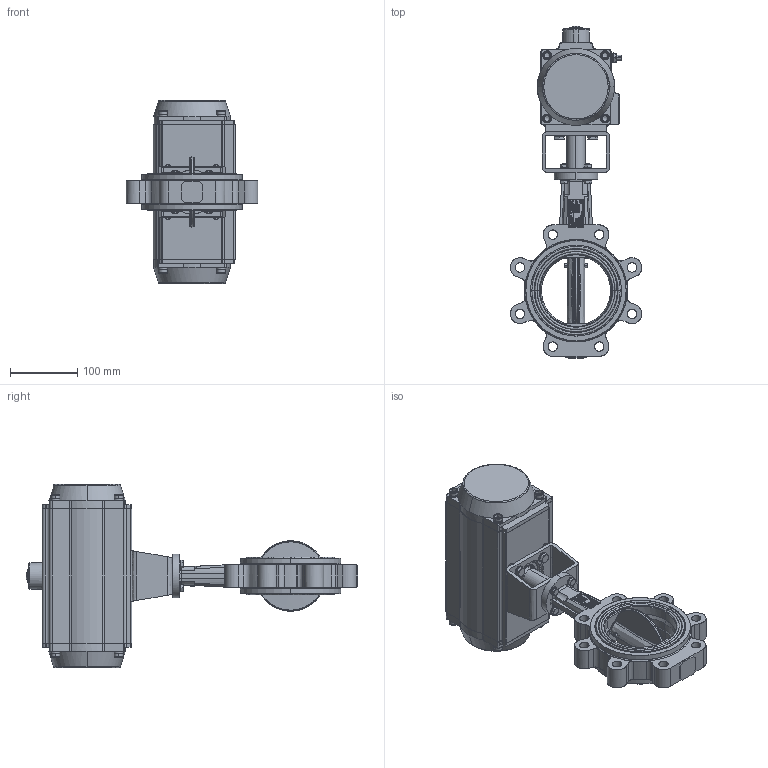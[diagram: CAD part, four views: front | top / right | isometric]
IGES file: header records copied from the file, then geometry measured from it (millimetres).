
Start section: SolidWorks IGES file using analytic representation for surfaces
Global section: file name: H:\BE BIBLIOTHEQUE 3D\BE SECTION 01 - ROBINETS A PAPILLON_VANNES PASSAGE DIRECTE\VP - Vanne Papillon\VPG\VPG4XXX-N07\LUG\DN100\VPG464X-N07XX0100.igs; native system: SolidWorks 2020; preprocessor: SolidWorks 2020; author: k.gigout; date: 220607.082521; units: millimetre
Bounding box: 195.3 x 493.12 x 272 mm (x, y, z)
Surface area: 372933.8 mm2 (no closed solid volume)
Topology: 0 solids, 0 shells, 915 faces, 20737 edges, 20733 vertices
Faces by surface type: bspline 524, revolution 391
